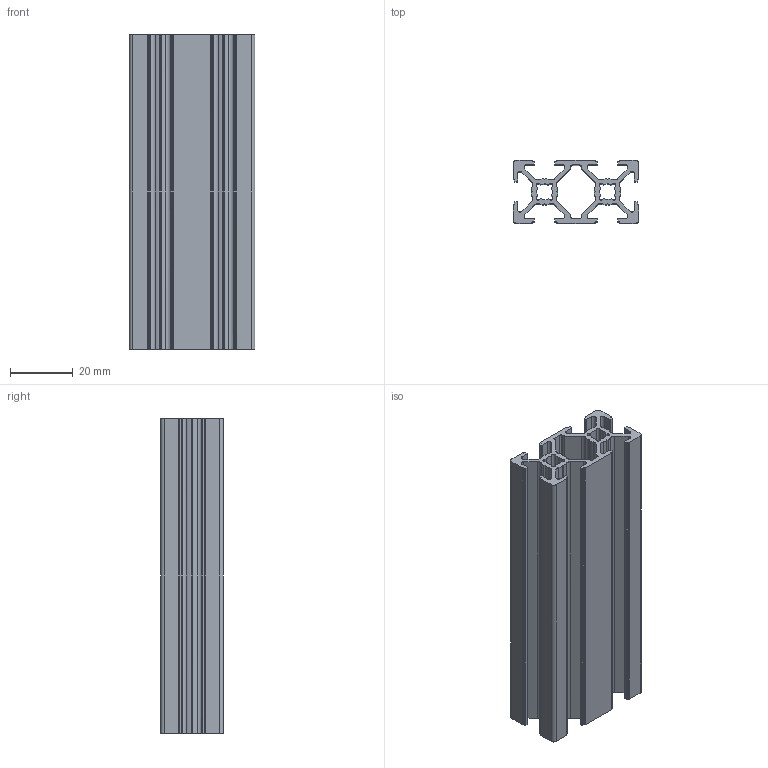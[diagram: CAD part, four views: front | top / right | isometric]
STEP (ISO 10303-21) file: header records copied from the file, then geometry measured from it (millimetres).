
FILE_DESCRIPTION (( 'STEP AP203' ), '1' );
FILE_NAME ('20x40 Sigma Profil.STEP', '2022-01-12T16:16:07', ( '' ), ( '' ), 'SwSTEP 2.0', 'SolidWorks 2018', '' );
FILE_SCHEMA (( 'CONFIG_CONTROL_DESIGN' ));
Length unit declared in the file: millimetre
Products named in the file (1): 20x40 Sigma Profil
Bounding box: 40 x 20 x 100 mm (x, y, z)
Volume: 26100.3 mm3; surface area: 33669.8 mm2
Topology: 1 solids, 1 shells, 236 faces, 702 edges, 468 vertices
Faces by surface type: bspline 236
Entity records: 8173 total; most frequent: CARTESIAN_POINT 4097, ORIENTED_EDGE 1404, EDGE_CURVE 702, B_SPLINE_CURVE_WITH_KNOTS 584, VERTEX_POINT 468, EDGE_LOOP 242, FACE_OUTER_BOUND 236, ADVANCED_FACE 236
